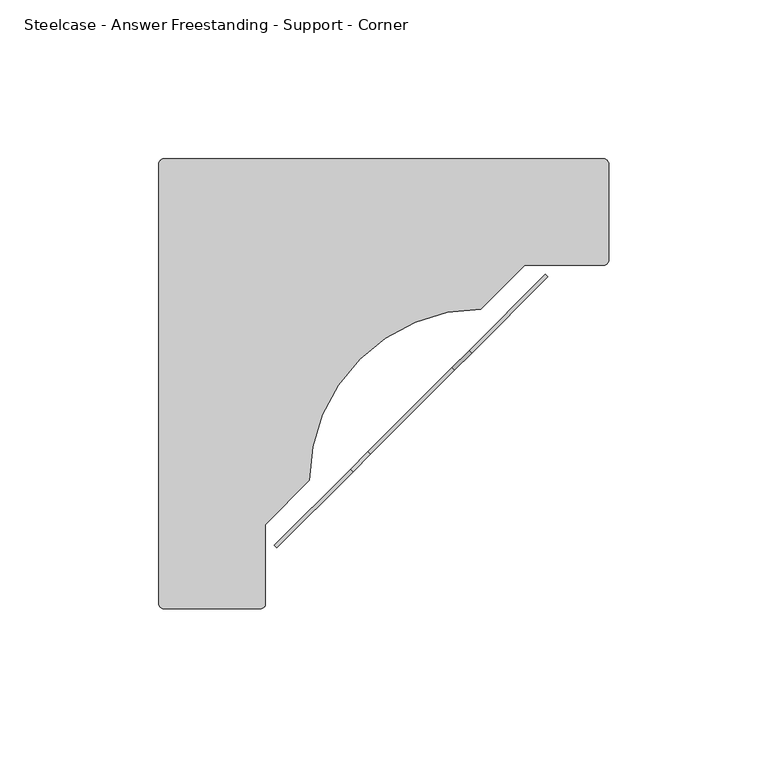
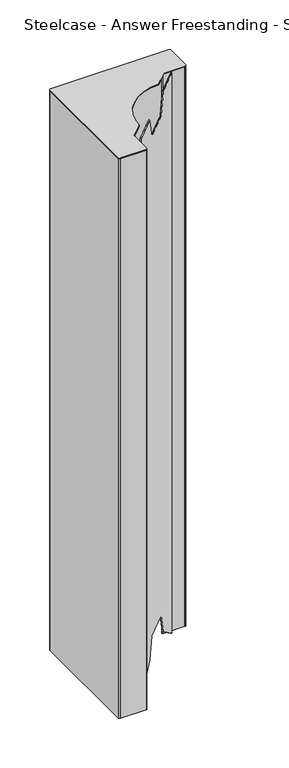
"""IFC4 building model written with IfcOpenShell, lengths in millimetres: furniture geometry, Steelcase - Answer Freestanding - Support - Corner : 5 1/2in x 5 1/2in x 27H."""

from ifc_helpers import new_model, si_unit, point, frame, frame_2d, origin, origin_with_axes, place, context, project, spatial, polyline, circle_curve, trimmed, segment, composite_curve, outline, extrude, source, transform, mapped, element, save


def steelcase_answer_freestanding_support_corner_8e75fba9(model_context):
    return source(origin(), model_context, "Body", "SweptSolid", [
        extrude(outline(polyline([(26.532996, -1e-07), (36.3509108, -32.5096389), (-629.282106, -233.530888), (-615.3925443, -193.8615885), (-593.294838, -179.1751106), (-604.1040908, -143.3828964), (-630.6371138, -143.3829012), (-664.162505, -118.032923), (1.4705118, 82.988326), (11.2884266, 50.4786872), (-10.8092529, 35.7922142), (0.0, 0.0), (26.532996, -1e-07)])), frame((66.5319464, -92.9952223, 669.9250242), z_axis=(-0.7071067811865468, 0.7071067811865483, 0.0), x_axis=(-0.20442740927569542, -0.204427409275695, 0.9572976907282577)), (0.0, 0.0, 1.0), 1.1176),
        extrude(outline(composite_curve([segment(polyline([(-0.0254002, -140.0728335), (-0.0254002, -1.5700064)]), True, "CONTINUOUS"), segment(trimmed(circle_curve(frame_2d((1.5446061, -1.5700064)), 1.5700064), [point((-0.0254002, -1.5700064))], [point((1.5446061, 0.0))], False, "CARTESIAN"), True, "CONTINUOUS"), segment(polyline([(1.5446061, 0.0), (139.9731227, 0.0)]), True, "CONTINUOUS"), segment(trimmed(circle_curve(frame_2d((139.9731227, -1.606484)), 1.606484), [point((139.9731227, 0.0))], [point((141.5796066, -1.606484))], False, "CARTESIAN"), True, "CONTINUOUS"), segment(polyline([(141.5796066, -1.606484), (141.5796066, -31.8996142)]), True, "CONTINUOUS"), segment(trimmed(circle_curve(frame_2d((140.0020212, -31.8996142)), 1.5775854), [point((141.5796066, -31.8996142))], [point((140.0020212, -33.4771996))], False, "CARTESIAN"), True, "CONTINUOUS"), segment(polyline([(140.0020212, -33.4771996), (115.0620033, -33.4771996), (101.2431277, -47.3213759)]), True, "CONTINUOUS"), segment(trimmed(circle_curve(frame_2d((101.2432479, -101.2029127)), 53.8815367), [point((101.2431277, -47.3213759))], [point((47.3617112, -101.2029127))], True, "CARTESIAN"), True, "CONTINUOUS"), segment(polyline([(47.3617112, -101.2029127), (33.5025994, -115.0874044), (33.5025994, -140.0570556)]), True, "CONTINUOUS"), segment(trimmed(circle_curve(frame_2d((31.9546481, -140.0570556)), 1.5479512), [point((33.5025994, -140.0570556))], [point((31.9546481, -141.6050069))], False, "CARTESIAN"), True, "CONTINUOUS"), segment(polyline([(31.9546481, -141.6050069), (1.5067732, -141.6050069)]), True, "CONTINUOUS"), segment(trimmed(circle_curve(frame_2d((1.5067732, -140.0728335)), 1.5321734), [point((1.5067732, -141.6050069))], [point((-0.0254002, -140.0728335))], False, "CARTESIAN"), True, "CONTINUOUS")], self_intersect=False)), frame((0.0, 0.0, 694.2074), z_axis=(0.0, 0.0, 1.0), x_axis=(1.0, 0.0, 0.0)), (0.0, 0.0, 1.0), 1.1176),
        extrude(outline(composite_curve([segment(polyline([(139.9515313, -1.1175996), (1.6379327, -1.1175996)]), True, "CONTINUOUS"), segment(trimmed(circle_curve(frame_2d((1.6379327, -1.6633329)), 0.5457333), [point((1.6379327, -1.1175996))], [point((1.0921994, -1.6633329))], True, "CARTESIAN"), True, "CONTINUOUS"), segment(polyline([(1.0921994, -1.6633329), (1.0921994, -139.965758)]), True, "CONTINUOUS"), segment(trimmed(circle_curve(frame_2d((1.613841, -139.965758)), 0.5216416), [point((1.0921994, -139.965758))], [point((1.613841, -140.4873996))], True, "CARTESIAN"), True, "CONTINUOUS"), segment(polyline([(1.613841, -140.4873996), (31.8560514, -140.4873996)]), True, "CONTINUOUS"), segment(trimmed(circle_curve(frame_2d((31.8560514, -139.9584511)), 0.5289485), [point((31.8560514, -140.4873996))], [point((32.385, -139.9584511))], True, "CARTESIAN"), True, "CONTINUOUS"), segment(polyline([(32.385, -139.9584511), (32.385, -113.6649972), (33.5025994, -113.6649972), (33.5025994, -140.0570556)]), True, "CONTINUOUS"), segment(trimmed(circle_curve(frame_2d((31.9546481, -140.0570556)), 1.5479512), [point((33.5025994, -140.0570556))], [point((31.9546481, -141.6050069))], False, "CARTESIAN"), True, "CONTINUOUS"), segment(polyline([(31.9546481, -141.6050069), (1.5067732, -141.6050069)]), True, "CONTINUOUS"), segment(trimmed(circle_curve(frame_2d((1.5067732, -140.0728335)), 1.5321734), [point((1.5067732, -141.6050069))], [point((-0.0254002, -140.0728335))], False, "CARTESIAN"), True, "CONTINUOUS"), segment(polyline([(-0.0254002, -140.0728335), (-0.0254002, -1.5700064)]), True, "CONTINUOUS"), segment(trimmed(circle_curve(frame_2d((1.5446061, -1.5700064)), 1.5700064), [point((-0.0254002, -1.5700064))], [point((1.5446061, 0.0))], False, "CARTESIAN"), True, "CONTINUOUS"), segment(polyline([(1.5446061, 0.0), (139.9731227, 0.0)]), True, "CONTINUOUS"), segment(trimmed(circle_curve(frame_2d((139.9731227, -1.606484)), 1.606484), [point((139.9731227, 0.0))], [point((141.5796066, -1.606484))], False, "CARTESIAN"), True, "CONTINUOUS"), segment(polyline([(141.5796066, -1.606484), (141.5796066, -31.8996142)]), True, "CONTINUOUS"), segment(trimmed(circle_curve(frame_2d((140.0020212, -31.8996142)), 1.5775854), [point((141.5796066, -31.8996142))], [point((140.0020212, -33.4771996))], False, "CARTESIAN"), True, "CONTINUOUS"), segment(polyline([(140.0020212, -33.4771996), (113.6395994, -33.4771996), (113.6395994, -32.3595993), (139.9429434, -32.3595993)]), True, "CONTINUOUS"), segment(trimmed(circle_curve(frame_2d((139.9429434, -31.8405433)), 0.519056), [point((139.9429434, -32.3595993))], [point((140.4619994, -31.8405433))], True, "CARTESIAN"), True, "CONTINUOUS"), segment(polyline([(140.4619994, -31.8405433), (140.4619994, -1.6280677)]), True, "CONTINUOUS"), segment(trimmed(circle_curve(frame_2d((139.9515313, -1.6280677)), 0.5104681), [point((140.4619994, -1.6280677))], [point((139.9515313, -1.1175996))], True, "CARTESIAN"), True, "CONTINUOUS")], self_intersect=False)), origin_with_axes(), (0.0, 0.0, 1.0), 694.2074),
    ])


if __name__ == "__main__":
    model = new_model("IFC4")
    model_context = context("Model", 3, world=origin())
    ifc_project = project(units=[si_unit("LENGTHUNIT", "METRE", prefix="MILLI")], contexts=[model_context])
    site = spatial("IfcSite", under=ifc_project)
    building = spatial("IfcBuilding", under=site)
    placement = place(None, origin())
    steelcase_answer_freestanding_support_corner_shape = steelcase_answer_freestanding_support_corner_8e75fba9(model_context)
    element("IfcFurniture", 1, ObjectType="Steelcase - Answer Freestanding - Support - Corner : 5 1/2in x 5 1/2in x 27H", at=placement, inside=building, context=model_context, shape_type="MappedRepresentation", body=[
        mapped(steelcase_answer_freestanding_support_corner_shape, transform((0.0, 0.0, 0.0), x_axis=(1.0, 0.0, 0.0), y_axis=(0.0, 1.0, 0.0), z_axis=(0.0, 0.0, 1.0))),
    ])
    save(model, "model.ifc")
